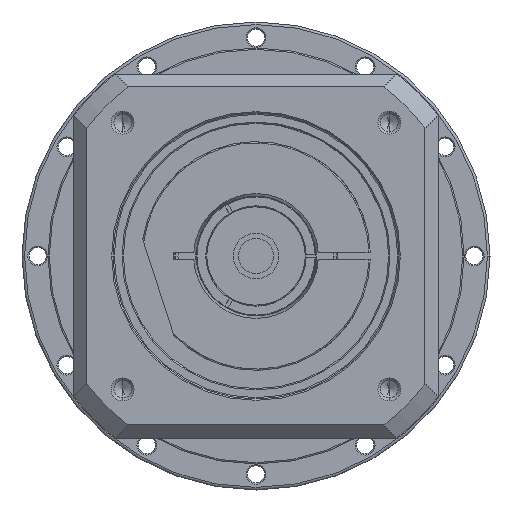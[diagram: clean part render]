
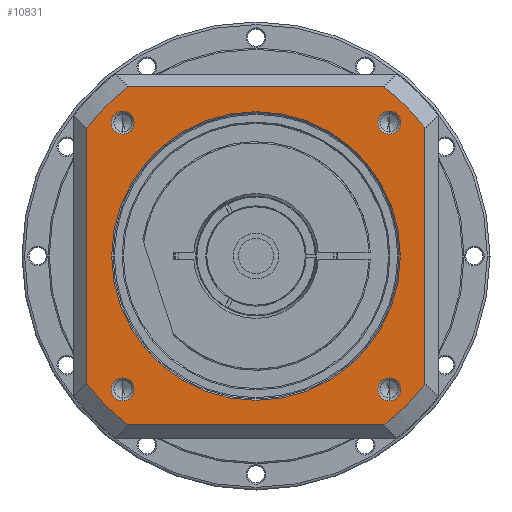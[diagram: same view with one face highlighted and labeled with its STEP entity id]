
A CAD part, left-side view. The second image highlights one B-rep face of the part: STEP entity #10831.
In plain terms, the highlighted planar face has unit normal (-1, 0, 0) as drawn and (0, 0, 1) by its records, which use the part's own axes.
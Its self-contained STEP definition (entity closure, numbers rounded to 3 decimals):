
#9604=CARTESIAN_POINT('',(0.,0.,
56.));
#9605=DIRECTION('',(0.,0.,-1.));
#9606=DIRECTION('',(0.,-1.,0.));
#9607=AXIS2_PLACEMENT_3D('',#9604,#9605,#9606);
#9609=CARTESIAN_POINT('',(0.,0.,
56.));
#9610=DIRECTION('',(0.,0.,-1.));
#9611=DIRECTION('',(0.,1.,0.));
#9612=AXIS2_PLACEMENT_3D('',#9609,#9610,#9611);
#9614=DIRECTION('',(1.,0.,0.));
#9615=VECTOR('',#9614,98.331);
#9616=CARTESIAN_POINT('',(-49.166,65.,56.));
#9617=LINE('',#9616,#9615);
#9618=CARTESIAN_POINT('',(0.,0.,56.));
#9619=DIRECTION('',(0.,0.,1.));
#9620=DIRECTION('',(0.798,0.603,0.));
#9621=AXIS2_PLACEMENT_3D('',#9618,#9619,#9620);
#9623=DIRECTION('',(0.,1.,0.));
#9624=VECTOR('',#9623,98.331);
#9625=CARTESIAN_POINT('',(65.,-49.166,56.));
#9626=LINE('',#9625,#9624);
#9627=DIRECTION('',(1.,0.,0.));
#9628=VECTOR('',#9627,98.331);
#9629=CARTESIAN_POINT('',(-49.166,-65.,56.));
#9630=LINE('',#9629,#9628);
#9631=CARTESIAN_POINT('',(0.,0.,56.));
#9632=DIRECTION('',(0.,0.,1.));
#9633=DIRECTION('',(-0.798,-0.603,0.));
#9634=AXIS2_PLACEMENT_3D('',#9631,#9632,#9633);
#9636=DIRECTION('',(0.,1.,0.));
#9637=VECTOR('',#9636,98.331);
#9638=CARTESIAN_POINT('',(-65.,-49.166,56.));
#9639=LINE('',#9638,#9637);
#9654=CARTESIAN_POINT('',(0.,0.,56.));
#9655=DIRECTION('',(0.,0.,1.));
#9656=DIRECTION('',(-0.603,0.798,0.));
#9657=AXIS2_PLACEMENT_3D('',#9654,#9655,#9656);
#9664=CARTESIAN_POINT('',(0.,0.,56.));
#9665=DIRECTION('',(0.,0.,1.));
#9666=DIRECTION('',(0.603,-0.798,0.));
#9667=AXIS2_PLACEMENT_3D('',#9664,#9665,#9666);
#9681=CARTESIAN_POINT('',(-49.166,65.,56.));
#9773=CARTESIAN_POINT('',(65.,-49.166,56.));
#9801=CARTESIAN_POINT('',(49.166,-65.,56.));
#9841=CARTESIAN_POINT('',(-65.,49.166,56.));
#9850=CARTESIAN_POINT('',(-51.265,51.265,56.));
#9851=DIRECTION('',(0.,0.,1.));
#9852=DIRECTION('',(-1.,0.,0.));
#9853=AXIS2_PLACEMENT_3D('',#9850,#9851,#9852);
#9868=CARTESIAN_POINT('',(-51.265,51.265,56.));
#9869=DIRECTION('',(0.,0.,1.));
#9870=DIRECTION('',(1.,0.,0.));
#9871=AXIS2_PLACEMENT_3D('',#9868,#9869,#9870);
#9904=CARTESIAN_POINT('',(51.265,51.265,56.));
#9905=DIRECTION('',(0.,0.,1.));
#9906=DIRECTION('',(-1.,0.,0.));
#9907=AXIS2_PLACEMENT_3D('',#9904,#9905,#9906);
#9922=CARTESIAN_POINT('',(51.265,51.265,56.));
#9923=DIRECTION('',(0.,0.,1.));
#9924=DIRECTION('',(1.,0.,0.));
#9925=AXIS2_PLACEMENT_3D('',#9922,#9923,#9924);
#9958=CARTESIAN_POINT('',(51.265,-51.265,56.));
#9959=DIRECTION('',(0.,0.,1.));
#9960=DIRECTION('',(-1.,0.,0.));
#9961=AXIS2_PLACEMENT_3D('',#9958,#9959,#9960);
#9976=CARTESIAN_POINT('',(51.265,-51.265,56.));
#9977=DIRECTION('',(0.,0.,1.));
#9978=DIRECTION('',(1.,0.,0.));
#9979=AXIS2_PLACEMENT_3D('',#9976,#9977,#9978);
#10012=CARTESIAN_POINT('',(-51.265,-51.265,56.));
#10013=DIRECTION('',(0.,0.,1.));
#10014=DIRECTION('',(-1.,0.,0.));
#10015=AXIS2_PLACEMENT_3D('',#10012,#10013,#10014);
#10030=CARTESIAN_POINT('',(-51.265,-51.265,56.));
#10031=DIRECTION('',(0.,0.,1.));
#10032=DIRECTION('',(1.,0.,0.));
#10033=AXIS2_PLACEMENT_3D('',#10030,#10031,#10032);
#10120=CARTESIAN_POINT('',(-55.665,51.265,56.));
#10121=CARTESIAN_POINT('',(-46.865,51.265,56.));
#10122=VERTEX_POINT('',#10120);
#10123=VERTEX_POINT('',#10121);
#10146=CARTESIAN_POINT('',(-65.,-49.166,56.));
#10147=CARTESIAN_POINT('',(-49.166,-65.,56.));
#10148=VERTEX_POINT('',#10146);
#10149=VERTEX_POINT('',#10147);
#10150=CARTESIAN_POINT('',(65.,49.166,56.));
#10151=CARTESIAN_POINT('',(49.166,65.,56.));
#10152=VERTEX_POINT('',#10150);
#10153=VERTEX_POINT('',#10151);
#10162=VERTEX_POINT('',#9681);
#10165=VERTEX_POINT('',#9773);
#10166=VERTEX_POINT('',#9801);
#10169=VERTEX_POINT('',#9841);
#10178=CARTESIAN_POINT('',(55.665,51.265,56.));
#10179=CARTESIAN_POINT('',(46.865,51.265,56.));
#10180=VERTEX_POINT('',#10178);
#10181=VERTEX_POINT('',#10179);
#10186=CARTESIAN_POINT('',(55.665,-51.265,56.));
#10187=CARTESIAN_POINT('',(46.865,-51.265,56.));
#10188=VERTEX_POINT('',#10186);
#10189=VERTEX_POINT('',#10187);
#10194=CARTESIAN_POINT('',(-46.865,-51.265,56.));
#10195=CARTESIAN_POINT('',(-55.665,-51.265,56.));
#10196=VERTEX_POINT('',#10194);
#10197=VERTEX_POINT('',#10195);
#10202=CARTESIAN_POINT('',(0.,-55.5,56.));
#10203=CARTESIAN_POINT('',(0.,55.5,
56.));
#10204=VERTEX_POINT('',#10202);
#10205=VERTEX_POINT('',#10203);
#10779=CARTESIAN_POINT('',(0.,0.,56.));
#10780=DIRECTION('',(0.,0.,1.));
#10781=DIRECTION('',(1.,0.,0.));
#10782=AXIS2_PLACEMENT_3D('',#10779,#10780,#10781);
#10783=PLANE('',#10782);
#10785=ORIENTED_EDGE('',*,*,#10784,.F.);
#10787=ORIENTED_EDGE('',*,*,#10786,.T.);
#10789=ORIENTED_EDGE('',*,*,#10788,.F.);
#10791=ORIENTED_EDGE('',*,*,#10790,.F.);
#10793=ORIENTED_EDGE('',*,*,#10792,.F.);
#10795=ORIENTED_EDGE('',*,*,#10794,.F.);
#10797=ORIENTED_EDGE('',*,*,#10796,.F.);
#10799=ORIENTED_EDGE('',*,*,#10798,.T.);
#10800=EDGE_LOOP('',(#10785,#10787,#10789,#10791,#10793,#10795,#10797,#10799));
#10801=FACE_OUTER_BOUND('',#10800,.F.);
#10802=ORIENTED_EDGE('',*,*,#10769,.F.);
#10804=ORIENTED_EDGE('',*,*,#10803,.F.);
#10805=EDGE_LOOP('',(#10802,#10804));
#10806=FACE_BOUND('',#10805,.F.);
#10808=ORIENTED_EDGE('',*,*,#10807,.T.);
#10810=ORIENTED_EDGE('',*,*,#10809,.T.);
#10811=EDGE_LOOP('',(#10808,#10810));
#10812=FACE_BOUND('',#10811,.F.);
#10814=ORIENTED_EDGE('',*,*,#10813,.T.);
#10816=ORIENTED_EDGE('',*,*,#10815,.T.);
#10817=EDGE_LOOP('',(#10814,#10816));
#10818=FACE_BOUND('',#10817,.F.);
#10820=ORIENTED_EDGE('',*,*,#10819,.T.);
#10822=ORIENTED_EDGE('',*,*,#10821,.T.);
#10823=EDGE_LOOP('',(#10820,#10822));
#10824=FACE_BOUND('',#10823,.F.);
#10826=ORIENTED_EDGE('',*,*,#10825,.T.);
#10828=ORIENTED_EDGE('',*,*,#10827,.T.);
#10829=EDGE_LOOP('',(#10826,#10828));
#10830=FACE_BOUND('',#10829,.F.);
#10831=ADVANCED_FACE('',(#10801,#10806,#10812,#10818,#10824,#10830),#10783,.T.);
#9608=CIRCLE('',#9607,55.5);
#9613=CIRCLE('',#9612,55.5);
#9622=CIRCLE('',#9621,81.5);
#9635=CIRCLE('',#9634,81.5);
#9658=CIRCLE('',#9657,81.5);
#9668=CIRCLE('',#9667,81.5);
#9854=CIRCLE('',#9853,4.4);
#9872=CIRCLE('',#9871,4.4);
#9908=CIRCLE('',#9907,4.4);
#9926=CIRCLE('',#9925,4.4);
#9962=CIRCLE('',#9961,4.4);
#9980=CIRCLE('',#9979,4.4);
#10016=CIRCLE('',#10015,4.4);
#10034=CIRCLE('',#10033,4.4);
#10769=EDGE_CURVE('',#10204,#10205,#9608,.T.);
#10784=EDGE_CURVE('',#10162,#10169,#9658,.T.);
#10786=EDGE_CURVE('',#10162,#10153,#9617,.T.);
#10788=EDGE_CURVE('',#10152,#10153,#9622,.T.);
#10790=EDGE_CURVE('',#10165,#10152,#9626,.T.);
#10792=EDGE_CURVE('',#10166,#10165,#9668,.T.);
#10794=EDGE_CURVE('',#10149,#10166,#9630,.T.);
#10796=EDGE_CURVE('',#10148,#10149,#9635,.T.);
#10798=EDGE_CURVE('',#10148,#10169,#9639,.T.);
#10803=EDGE_CURVE('',#10205,#10204,#9613,.T.);
#10807=EDGE_CURVE('',#10122,#10123,#9854,.T.);
#10809=EDGE_CURVE('',#10123,#10122,#9872,.T.);
#10813=EDGE_CURVE('',#10181,#10180,#9908,.T.);
#10815=EDGE_CURVE('',#10180,#10181,#9926,.T.);
#10819=EDGE_CURVE('',#10189,#10188,#9962,.T.);
#10821=EDGE_CURVE('',#10188,#10189,#9980,.T.);
#10825=EDGE_CURVE('',#10197,#10196,#10016,.T.);
#10827=EDGE_CURVE('',#10196,#10197,#10034,.T.);
